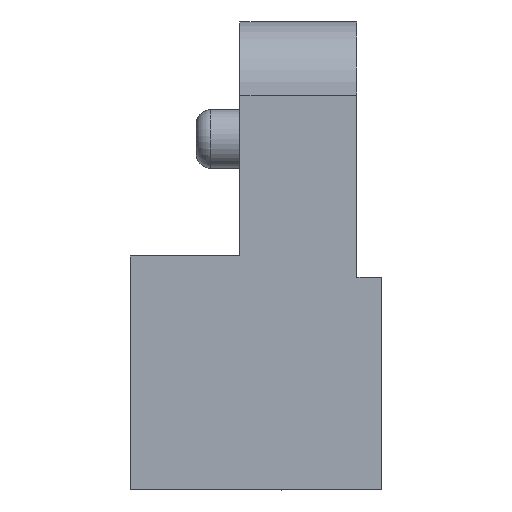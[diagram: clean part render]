
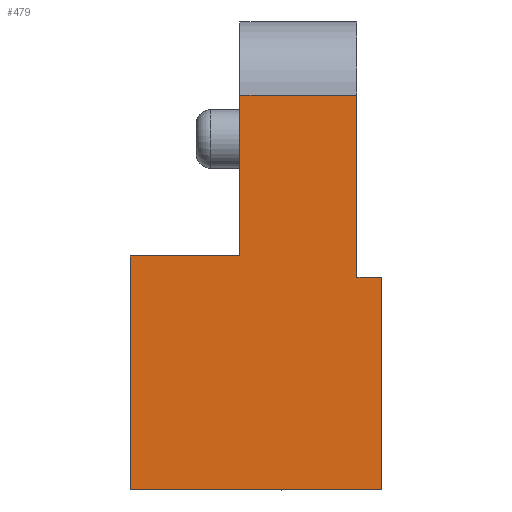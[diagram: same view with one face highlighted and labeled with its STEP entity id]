
A CAD part, left-side view. The second image highlights one B-rep face of the part: STEP entity #479.
In plain terms, the highlighted planar face has unit normal (-1, 0, 0).
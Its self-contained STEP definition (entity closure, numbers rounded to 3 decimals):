
#16 = DIRECTION ( 'NONE',  ( 0., 0., -1. ) ) ;
#21 = DIRECTION ( 'NONE',  ( 0., 0., -1. ) ) ;
#128 = DIRECTION ( 'NONE',  ( 0., 1., 0. ) ) ;
#161 = EDGE_CURVE ( 'NONE', #4051, #3992, #3200, .T. ) ;
#170 = EDGE_LOOP ( 'NONE', ( #786, #3641, #849, #3914, #575, #3080, #2696, #3371 ) ) ;
#185 = VERTEX_POINT ( 'NONE', #1773 ) ;
#199 = DIRECTION ( 'NONE',  ( 0., 1., 0. ) ) ;
#244 = DIRECTION ( 'NONE',  ( 0., -1., 0. ) ) ;
#283 = CARTESIAN_POINT ( 'NONE',  ( -45.13, -4.3, 0. ) ) ;
#294 = LINE ( 'NONE', #1683, #3506 ) ;
#377 = VERTEX_POINT ( 'NONE', #1677 ) ;
#479 = ADVANCED_FACE ( 'NONE', ( #2816 ), #2431, .T. ) ;
#575 = ORIENTED_EDGE ( 'NONE', *, *, #1900, .T. ) ;
#593 = DIRECTION ( 'NONE',  ( 0., 1., 0. ) ) ;
#652 = DIRECTION ( 'NONE',  ( 0., 0., -1. ) ) ;
#659 = CARTESIAN_POINT ( 'NONE',  ( -45.13, 0.55, 13.5 ) ) ;
#674 = VERTEX_POINT ( 'NONE', #2515 ) ;
#691 = CARTESIAN_POINT ( 'NONE',  ( -45.13, 4.3, 0. ) ) ;
#786 = ORIENTED_EDGE ( 'NONE', *, *, #4467, .T. ) ;
#806 = LINE ( 'NONE', #3893, #2369 ) ;
#849 = ORIENTED_EDGE ( 'NONE', *, *, #1421, .T. ) ;
#914 = CARTESIAN_POINT ( 'NONE',  ( -45.13, 0.55, 8. ) ) ;
#1108 = CARTESIAN_POINT ( 'NONE',  ( -45.13, 0., 0. ) ) ;
#1374 = VECTOR ( 'NONE', #593, 1000. ) ;
#1384 = EDGE_CURVE ( 'NONE', #377, #4051, #2392, .T. ) ;
#1421 = EDGE_CURVE ( 'NONE', #674, #185, #294, .T. ) ;
#1508 = VECTOR ( 'NONE', #652, 1000. ) ;
#1618 = VERTEX_POINT ( 'NONE', #659 ) ;
#1652 = VECTOR ( 'NONE', #16, 1000. ) ;
#1656 = CARTESIAN_POINT ( 'NONE',  ( -45.13, 4.3, 0. ) ) ;
#1677 = CARTESIAN_POINT ( 'NONE',  ( -45.13, 0.55, 8. ) ) ;
#1683 = CARTESIAN_POINT ( 'NONE',  ( -45.13, -16.14, 7.27 ) ) ;
#1753 = CARTESIAN_POINT ( 'NONE',  ( -45.13, 4.3, 8. ) ) ;
#1773 = CARTESIAN_POINT ( 'NONE',  ( -45.13, -3.45, 7.27 ) ) ;
#1900 = EDGE_CURVE ( 'NONE', #4505, #1618, #3032, .T. ) ;
#2078 = EDGE_CURVE ( 'NONE', #185, #4505, #2882, .T. ) ;
#2129 = CARTESIAN_POINT ( 'NONE',  ( -45.13, 4.3, 8. ) ) ;
#2152 = CARTESIAN_POINT ( 'NONE',  ( -45.13, -3.45, 0. ) ) ;
#2157 = DIRECTION ( 'NONE',  ( 0., 0., 1. ) ) ;
#2179 = VECTOR ( 'NONE', #2910, 1000. ) ;
#2229 = VECTOR ( 'NONE', #244, 1000. ) ;
#2369 = VECTOR ( 'NONE', #21, 1000. ) ;
#2381 = LINE ( 'NONE', #283, #1508 ) ;
#2392 = LINE ( 'NONE', #914, #1374 ) ;
#2431 = PLANE ( 'NONE',  #2751 ) ;
#2515 = CARTESIAN_POINT ( 'NONE',  ( -45.13, -4.3, 7.27 ) ) ;
#2600 = CARTESIAN_POINT ( 'NONE',  ( -45.13, -4.3, 0. ) ) ;
#2696 = ORIENTED_EDGE ( 'NONE', *, *, #1384, .T. ) ;
#2751 = AXIS2_PLACEMENT_3D ( 'NONE', #1108, #2793, #2157 ) ;
#2793 = DIRECTION ( 'NONE',  ( -1., 0., 0. ) ) ;
#2816 = FACE_OUTER_BOUND ( 'NONE', #170, .T. ) ;
#2882 = LINE ( 'NONE', #2152, #2179 ) ;
#2910 = DIRECTION ( 'NONE',  ( 0., 0., 1. ) ) ;
#3032 = LINE ( 'NONE', #4352, #3653 ) ;
#3064 = LINE ( 'NONE', #1656, #2229 ) ;
#3080 = ORIENTED_EDGE ( 'NONE', *, *, #4379, .T. ) ;
#3200 = LINE ( 'NONE', #1753, #1652 ) ;
#3371 = ORIENTED_EDGE ( 'NONE', *, *, #161, .T. ) ;
#3386 = CARTESIAN_POINT ( 'NONE',  ( -45.13, -3.45, 13.5 ) ) ;
#3438 = VERTEX_POINT ( 'NONE', #2600 ) ;
#3506 = VECTOR ( 'NONE', #128, 1000. ) ;
#3641 = ORIENTED_EDGE ( 'NONE', *, *, #3924, .F. ) ;
#3653 = VECTOR ( 'NONE', #199, 1000. ) ;
#3893 = CARTESIAN_POINT ( 'NONE',  ( -45.13, 0.55, 16. ) ) ;
#3914 = ORIENTED_EDGE ( 'NONE', *, *, #2078, .T. ) ;
#3924 = EDGE_CURVE ( 'NONE', #674, #3438, #2381, .T. ) ;
#3992 = VERTEX_POINT ( 'NONE', #691 ) ;
#4051 = VERTEX_POINT ( 'NONE', #2129 ) ;
#4352 = CARTESIAN_POINT ( 'NONE',  ( -45.13, 0.55, 13.5 ) ) ;
#4379 = EDGE_CURVE ( 'NONE', #1618, #377, #806, .T. ) ;
#4467 = EDGE_CURVE ( 'NONE', #3992, #3438, #3064, .T. ) ;
#4505 = VERTEX_POINT ( 'NONE', #3386 ) ;
